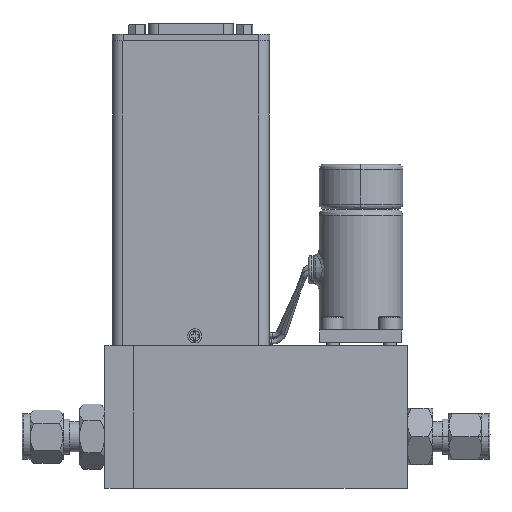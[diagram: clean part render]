
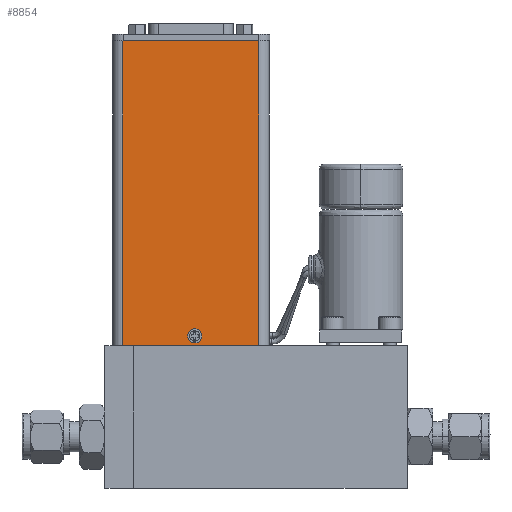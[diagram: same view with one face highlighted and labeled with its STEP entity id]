
A CAD part, front view. The second image highlights one B-rep face of the part: STEP entity #8854.
In plain terms, the highlighted planar face has unit normal (0, -1, 0).
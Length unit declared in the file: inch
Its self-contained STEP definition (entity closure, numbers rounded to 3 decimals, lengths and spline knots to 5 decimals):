
#1699 = DIRECTION ( 'NONE',  ( 0., 0., 1. ) ) ;
#3284 = CARTESIAN_POINT ( 'NONE',  ( 1.85836, 0.008, 1.48511 ) ) ;
#4797 = DIRECTION ( 'NONE',  ( 0., 1., 0. ) ) ;
#7377 = EDGE_CURVE ( 'NONE', #49922, #42769, #60393, .T. ) ;
#8854 = ADVANCED_FACE ( 'NONE', ( #31396, #38551 ), #21392, .T. ) ;
#8863 = ORIENTED_EDGE ( 'NONE', *, *, #7377, .T. ) ;
#9811 = DIRECTION ( 'NONE',  ( 1., 0., 0. ) ) ;
#10040 = CIRCLE ( 'NONE', #15435, 0.06299 ) ;
#11870 = CARTESIAN_POINT ( 'NONE',  ( 1.03036, 0.008, 1.48511 ) ) ;
#11999 = CIRCLE ( 'NONE', #49148, 0.06299 ) ;
#12118 = ORIENTED_EDGE ( 'NONE', *, *, #50528, .T. ) ;
#13508 = CARTESIAN_POINT ( 'NONE',  ( 1.03036, 0.008, 5.19964 ) ) ;
#14700 = EDGE_CURVE ( 'NONE', #42769, #22350, #16308, .T. ) ;
#15435 = AXIS2_PLACEMENT_3D ( 'NONE', #42406, #63262, #16360 ) ;
#16308 = LINE ( 'NONE', #53286, #38164 ) ;
#16360 = DIRECTION ( 'NONE',  ( 0., 0., 1. ) ) ;
#18522 = CARTESIAN_POINT ( 'NONE',  ( 0.20236, 0.008, 5.19964 ) ) ;
#20843 = ORIENTED_EDGE ( 'NONE', *, *, #39500, .T. ) ;
#21392 = PLANE ( 'NONE',  #33354 ) ;
#22238 = LINE ( 'NONE', #57916, #58051 ) ;
#22350 = VERTEX_POINT ( 'NONE', #67201 ) ;
#25604 = DIRECTION ( 'NONE',  ( 0., 0., 1. ) ) ;
#26651 = EDGE_CURVE ( 'NONE', #22350, #47254, #30327, .T. ) ;
#26856 = DIRECTION ( 'NONE',  ( 0., -1., 0. ) ) ;
#28799 = ORIENTED_EDGE ( 'NONE', *, *, #61268, .T. ) ;
#30327 = LINE ( 'NONE', #62493, #33858 ) ;
#30423 = CARTESIAN_POINT ( 'NONE',  ( 1.07761, 0.008, 1.54012 ) ) ;
#30673 = CARTESIAN_POINT ( 'NONE',  ( 1.07761, 0.008, 1.6661 ) ) ;
#31396 = FACE_OUTER_BOUND ( 'NONE', #52300, .T. ) ;
#33354 = AXIS2_PLACEMENT_3D ( 'NONE', #11870, #26856, #47786 ) ;
#33858 = VECTOR ( 'NONE', #9811, 39.37008 ) ;
#38164 = VECTOR ( 'NONE', #51894, 39.37008 ) ;
#38551 = FACE_BOUND ( 'NONE', #49787, .T. ) ;
#39500 = EDGE_CURVE ( 'NONE', #40236, #49363, #10040, .T. ) ;
#39844 = DIRECTION ( 'NONE',  ( -1., 0., 0. ) ) ;
#40236 = VERTEX_POINT ( 'NONE', #30423 ) ;
#42406 = CARTESIAN_POINT ( 'NONE',  ( 1.07761, 0.008, 1.60311 ) ) ;
#42634 = ORIENTED_EDGE ( 'NONE', *, *, #14700, .T. ) ;
#42769 = VERTEX_POINT ( 'NONE', #18522 ) ;
#43027 = CARTESIAN_POINT ( 'NONE',  ( 1.85836, 0.008, 5.19964 ) ) ;
#43247 = ORIENTED_EDGE ( 'NONE', *, *, #26651, .T. ) ;
#47254 = VERTEX_POINT ( 'NONE', #3284 ) ;
#47786 = DIRECTION ( 'NONE',  ( 0., 0., -1. ) ) ;
#49148 = AXIS2_PLACEMENT_3D ( 'NONE', #66781, #4797, #25604 ) ;
#49363 = VERTEX_POINT ( 'NONE', #30673 ) ;
#49787 = EDGE_LOOP ( 'NONE', ( #28799, #20843 ) ) ;
#49922 = VERTEX_POINT ( 'NONE', #43027 ) ;
#50528 = EDGE_CURVE ( 'NONE', #47254, #49922, #22238, .T. ) ;
#51894 = DIRECTION ( 'NONE',  ( 0., 0., -1. ) ) ;
#52300 = EDGE_LOOP ( 'NONE', ( #8863, #42634, #43247, #12118 ) ) ;
#53286 = CARTESIAN_POINT ( 'NONE',  ( 0.20236, 0.008, 1.48511 ) ) ;
#57916 = CARTESIAN_POINT ( 'NONE',  ( 1.85836, 0.008, 1.48511 ) ) ;
#58051 = VECTOR ( 'NONE', #1699, 39.37008 ) ;
#60393 = LINE ( 'NONE', #13508, #67762 ) ;
#61268 = EDGE_CURVE ( 'NONE', #49363, #40236, #11999, .T. ) ;
#62493 = CARTESIAN_POINT ( 'NONE',  ( 1.03036, 0.008, 1.48511 ) ) ;
#63262 = DIRECTION ( 'NONE',  ( 0., 1., 0. ) ) ;
#66781 = CARTESIAN_POINT ( 'NONE',  ( 1.07761, 0.008, 1.60311 ) ) ;
#67201 = CARTESIAN_POINT ( 'NONE',  ( 0.20236, 0.008, 1.48511 ) ) ;
#67762 = VECTOR ( 'NONE', #39844, 39.37008 ) ;
